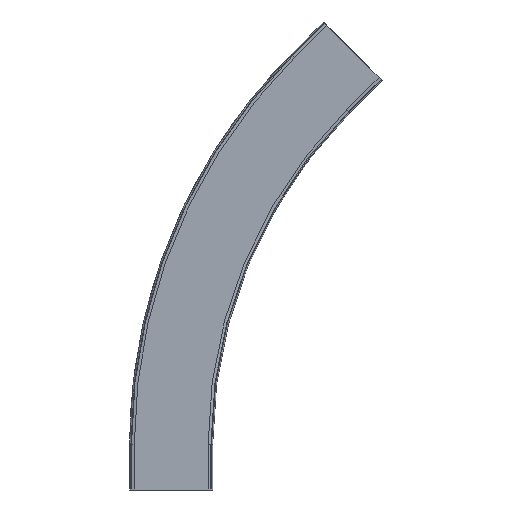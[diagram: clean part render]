
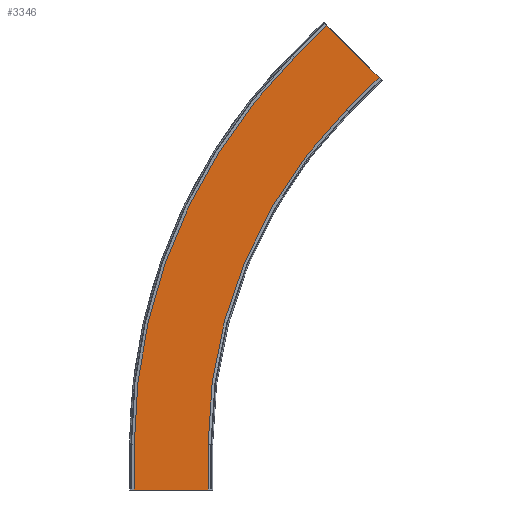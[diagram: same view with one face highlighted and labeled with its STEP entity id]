
A CAD part, front view. The second image highlights one B-rep face of the part: STEP entity #3346.
In plain terms, the highlighted planar face has unit normal (0, -1, 0).
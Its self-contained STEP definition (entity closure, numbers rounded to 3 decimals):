
#147=CIRCLE('',#3552,835.);
#148=CIRCLE('',#3554,965.);
#302=FACE_OUTER_BOUND('',#481,.T.);
#481=EDGE_LOOP('',(#2243,#2244,#2245,#2246,#2247,#2248,#2249,#2250));
#671=LINE('',#4670,#1025);
#675=LINE('',#4677,#1029);
#686=LINE('',#4710,#1040);
#687=LINE('',#4712,#1041);
#688=LINE('',#4713,#1042);
#689=LINE('',#4714,#1043);
#1025=VECTOR('',#3804,10.);
#1029=VECTOR('',#3810,10.);
#1040=VECTOR('',#3841,10.);
#1041=VECTOR('',#3842,10.);
#1042=VECTOR('',#3843,10.);
#1043=VECTOR('',#3844,10.);
#1379=VERTEX_POINT('',#4667);
#1380=VERTEX_POINT('',#4669);
#1382=VERTEX_POINT('',#4675);
#1391=VERTEX_POINT('',#4701);
#1392=VERTEX_POINT('',#4703);
#1393=VERTEX_POINT('',#4707);
#1394=VERTEX_POINT('',#4709);
#1395=VERTEX_POINT('',#4711);
#1711=EDGE_CURVE('',#1380,#1379,#671,.T.);
#1715=EDGE_CURVE('',#1382,#1379,#675,.T.);
#1728=EDGE_CURVE('',#1392,#1391,#147,.T.);
#1730=EDGE_CURVE('',#1393,#1382,#148,.T.);
#1731=EDGE_CURVE('',#1394,#1393,#686,.T.);
#1732=EDGE_CURVE('',#1394,#1395,#687,.T.);
#1733=EDGE_CURVE('',#1395,#1392,#688,.T.);
#1734=EDGE_CURVE('',#1391,#1380,#689,.T.);
#2243=ORIENTED_EDGE('',*,*,#1711,.T.);
#2244=ORIENTED_EDGE('',*,*,#1715,.F.);
#2245=ORIENTED_EDGE('',*,*,#1730,.F.);
#2246=ORIENTED_EDGE('',*,*,#1731,.F.);
#2247=ORIENTED_EDGE('',*,*,#1732,.T.);
#2248=ORIENTED_EDGE('',*,*,#1733,.T.);
#2249=ORIENTED_EDGE('',*,*,#1728,.T.);
#2250=ORIENTED_EDGE('',*,*,#1734,.T.);
#3229=PLANE('',#3553);
#3346=ADVANCED_FACE('',(#302),#3229,.T.);
#3552=AXIS2_PLACEMENT_3D('',#4704,#3834,#3835);
#3553=AXIS2_PLACEMENT_3D('',#4706,#3837,#3838);
#3554=AXIS2_PLACEMENT_3D('',#4708,#3839,#3840);
#3804=DIRECTION('',(-0.707,0.,0.707));
#3810=DIRECTION('',(0.707,0.,0.707));
#3834=DIRECTION('center_axis',(0.,1.,0.));
#3835=DIRECTION('ref_axis',(-1.,0.,0.));
#3837=DIRECTION('center_axis',(0.,-1.,0.));
#3838=DIRECTION('ref_axis',(-0.707,0.,-0.707));
#3839=DIRECTION('center_axis',(0.,1.,0.));
#3840=DIRECTION('ref_axis',(-1.,0.,0.));
#3841=DIRECTION('',(0.,0.,1.));
#3842=DIRECTION('',(1.,0.,0.));
#3843=DIRECTION('',(0.,0.,1.));
#3844=DIRECTION('',(0.707,0.,0.707));
#4667=CARTESIAN_POINT('',(313.211,-72.,818.927));
#4669=CARTESIAN_POINT('',(405.135,-72.,727.003));
#4670=CARTESIAN_POINT('',(381.093,-72.,751.044));
#4675=CARTESIAN_POINT('',(256.643,-72.,762.358));
#4677=CARTESIAN_POINT('',(-299.75,-72.,205.965));
#4701=CARTESIAN_POINT('',(348.567,-72.,670.434));
#4703=CARTESIAN_POINT('',(104.001,-72.,80.));
#4704=CARTESIAN_POINT('Origin',(939.001,-72.,80.));
#4706=CARTESIAN_POINT('Origin',(-207.826,-72.,114.041));
#4707=CARTESIAN_POINT('',(-25.999,-72.,80.));
#4708=CARTESIAN_POINT('Origin',(939.001,-72.,80.));
#4709=CARTESIAN_POINT('',(-25.999,-72.,0.));
#4710=CARTESIAN_POINT('',(-25.999,-72.,0.));
#4711=CARTESIAN_POINT('',(104.001,-72.,0.));
#4712=CARTESIAN_POINT('',(-25.999,-72.,0.));
#4713=CARTESIAN_POINT('',(104.001,-72.,0.));
#4714=CARTESIAN_POINT('',(-207.826,-72.,114.041));
